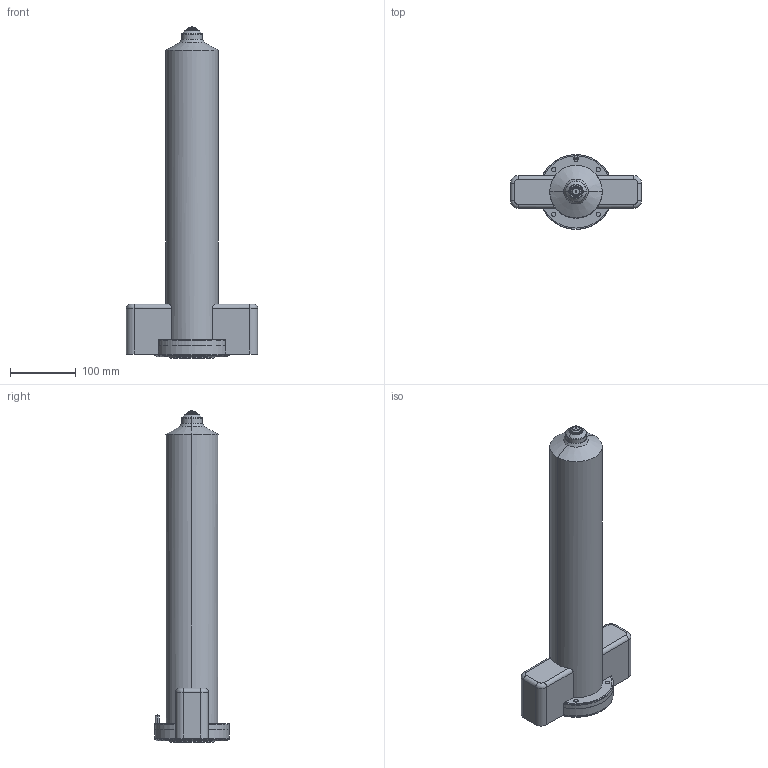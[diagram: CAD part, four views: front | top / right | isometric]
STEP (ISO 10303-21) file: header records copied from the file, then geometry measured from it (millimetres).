
FILE_DESCRIPTION (( 'STEP AP214' ), '1' );
FILE_NAME ('SR24_OPEN_500_TUBULAR.STEP', '2009-05-07T18:35:21', ( 'Synventive Molding Solutions' ), ( 'Synventive Molding Solutions' ), 'SwSTEP 2.0', 'SolidWorks 2008', '' );
FILE_SCHEMA (( 'AUTOMOTIVE_DESIGN' ));
Length unit declared in the file: millimetre
Products named in the file (1): SR24_OPEN_500_TUBULAR
Bounding box: 200 x 113.86 x 506 mm (x, y, z)
Volume: 4326857.2 mm3; surface area: 353228.3 mm2
Topology: 4 solids, 6 shells, 405 faces, 970 edges, 582 vertices
Faces by surface type: cylinder 169, plane 98, torus 64, cone 58, sphere 16
Entity records: 17040 total; most frequent: CARTESIAN_POINT 3065, DIRECTION 2148, ORIENTED_EDGE 1888, EDGE_CURVE 944, AXIS2_PLACEMENT_3D 888, VERTEX_POINT 576, CIRCLE 482, EDGE_LOOP 444
